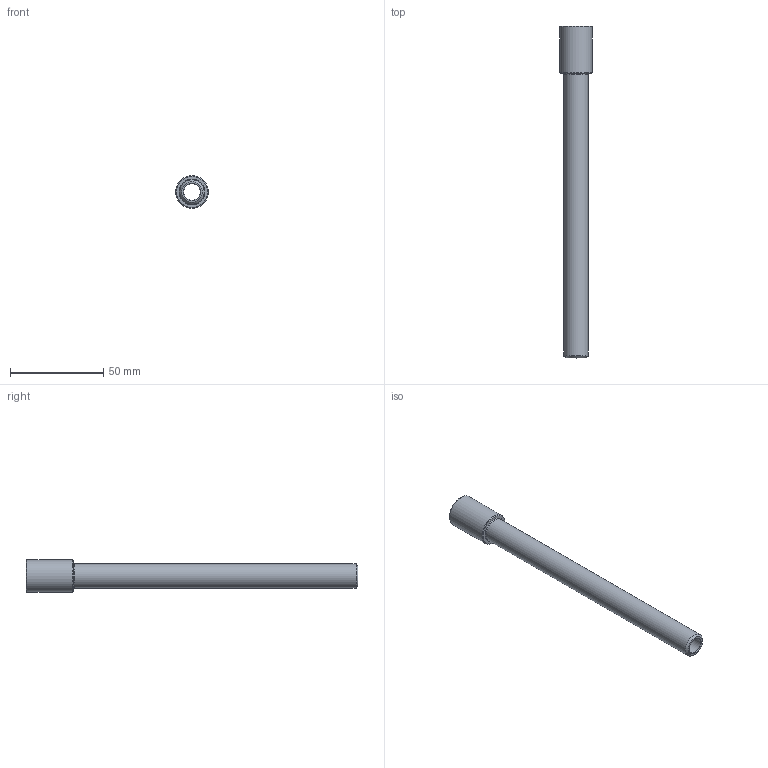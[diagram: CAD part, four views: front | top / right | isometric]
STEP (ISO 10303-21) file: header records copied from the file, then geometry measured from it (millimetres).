
FILE_DESCRIPTION(/* description */ (''),/* implementation_level */ '2;1');
FILE_NAME(/* name */ 'C:/Users/drich/Desktop/EP14X7 v1.step',/* time_stamp */ '2019-11-18T15:01:56-06:00',/* author */ (''),/* organization */ (''),/* preprocessor_version */ 'ST-DEVELOPER v18',/* originating_system */ 'Autodesk Translation Framework v8.12.0.6',/* authorisation */ '');
FILE_SCHEMA (('AUTOMOTIVE_DESIGN { 1 0 10303 214 3 1 1 }'));
Length unit declared in the file: inch
Products named in the file (2): EP14X7; EP14X4
Assembly tree (1 placements, depth 2):
  EP14X7
    EP14X4
Bounding box: 17.45 x 177.8 x 17.45 mm (x, y, z)
Volume: 14896.3 mm3; surface area: 12988.8 mm2
Topology: 1 solids, 1 shells, 23 faces, 55 edges, 37 vertices
Faces by surface type: plane 11, cone 7, cylinder 5
Full cylindrical faces by diameter (mm): 8.712 x1, 11.43 x1, 11.668 x1, 13.032 x1, 17.45 x1
Entity records: 740 total; most frequent: CARTESIAN_POINT 132, DIRECTION 124, ORIENTED_EDGE 110, EDGE_CURVE 55, AXIS2_PLACEMENT_3D 50, VERTEX_POINT 37, EDGE_LOOP 28, LINE 24
